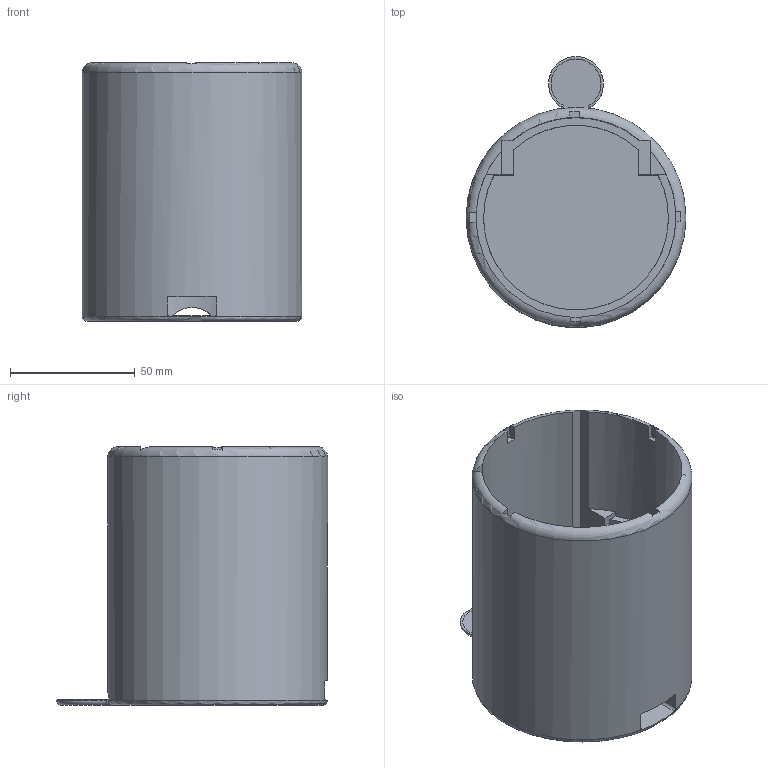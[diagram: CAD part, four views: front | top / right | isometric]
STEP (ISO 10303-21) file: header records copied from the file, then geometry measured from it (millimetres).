
FILE_DESCRIPTION(/* description */ (''),/* implementation_level */ '2;1');
FILE_NAME(/* name */ 'Outer Shell.step',/* time_stamp */ '2026-07-17T11:57:17+01:00',/* author */ (''),/* organization */ (''),/* preprocessor_version */ 'ST-DEVELOPER v20.1',/* originating_system */ 'Autodesk Translation Framework v15.8.0.0',/* authorisation */ '');
FILE_SCHEMA (('AUTOMOTIVE_DESIGN { 1 0 10303 214 3 1 1 }'));
Length unit declared in the file: millimetre
Products named in the file (2): Outer Shell; Outer Shell (1)
Assembly tree (1 placements, depth 2):
  Outer Shell
    Outer Shell (1)
Bounding box: 88 x 108.5 x 103.39 mm (x, y, z)
Volume: 147249.5 mm3; surface area: 66674 mm2
Topology: 1 solids, 1 shells, 53 faces, 156 edges, 101 vertices
Faces by surface type: plane 29, cylinder 20, torus 4
Full cylindrical faces by diameter (mm): 88 x1
Entity records: 2071 total; most frequent: CARTESIAN_POINT 626, ORIENTED_EDGE 312, DIRECTION 275, EDGE_CURVE 156, VERTEX_POINT 101, AXIS2_PLACEMENT_3D 98, LINE 79, VECTOR 79
